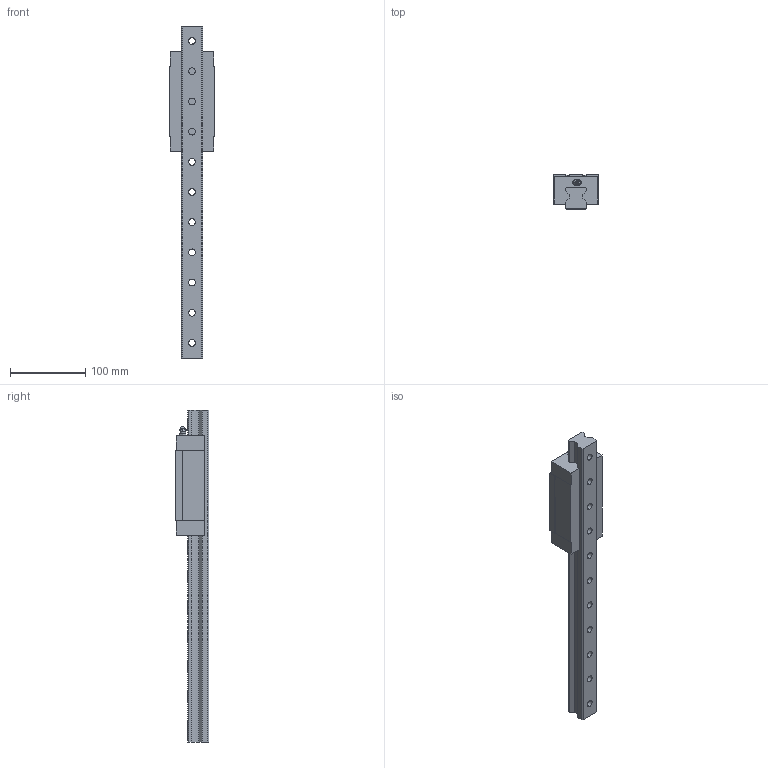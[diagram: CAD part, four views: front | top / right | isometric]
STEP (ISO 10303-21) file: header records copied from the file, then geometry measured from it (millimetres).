
FILE_DESCRIPTION(('STEP AP214'),'1');
FILE_NAME('D:/ModelConvertServices/Model.002/SVC.ACISConvertServices002/output/b8491202-ddea-455e-8163-b11856b5fc85/1_RGH30HA1R440ZOH.step','2022-07-22T10:26:14',(' '),(' '),'Spatial InterOp 3D',' ',' ');
FILE_SCHEMA(('automotive_design'));
Length unit declared in the file: millimetre
Products named in the file (2): 1; 2
Bounding box: 60 x 45 x 440 mm (x, y, z)
Volume: 495331.3 mm3; surface area: 100412.7 mm2
Topology: 2 solids, 2 shells, 264 faces, 653 edges, 424 vertices
Faces by surface type: plane 136, cylinder 96, cone 30, sphere 2
Entity records: 10042 total; most frequent: CARTESIAN_POINT 1501, DIRECTION 1363, ORIENTED_EDGE 1302, EDGE_CURVE 651, AXIS2_PLACEMENT_3D 494, VERTEX_POINT 424, LINE 375, VECTOR 375
